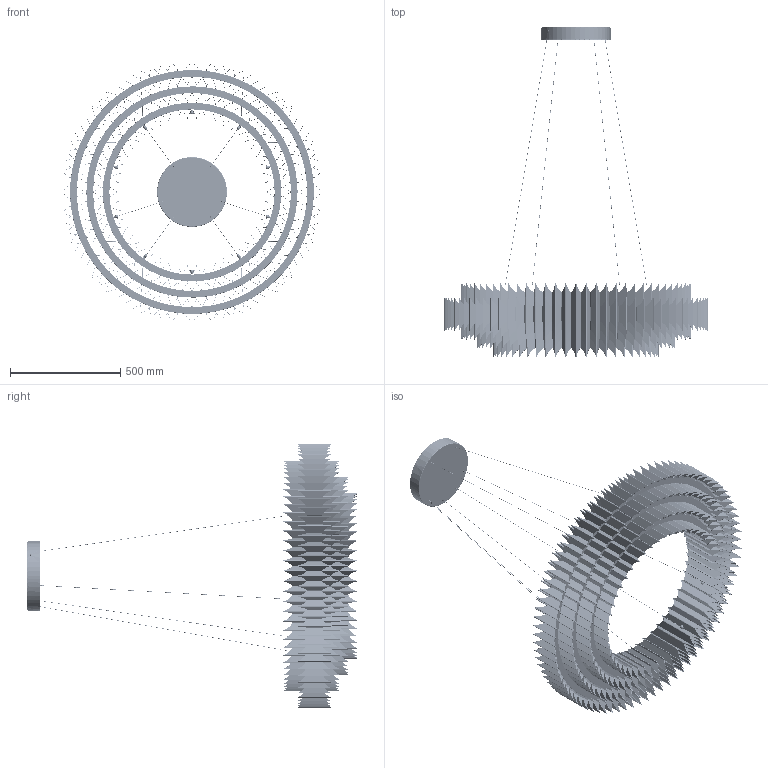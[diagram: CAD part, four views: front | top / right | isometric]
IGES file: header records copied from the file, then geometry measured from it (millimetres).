
Global section: file name: KING-LARGE; native system: Autodesk Inventor 2023; preprocessor: unknown; author: JM; date: 20240502.143545; units: millimetre
Bounding box: 1195 x 1500 x 1195 mm (x, y, z)
Volume: 6027206 mm3; surface area: 10551239 mm2
Topology: 346 solids, 346 shells, 16760 faces, 47629 edges, 31658 vertices
Faces by surface type: bspline 16760
